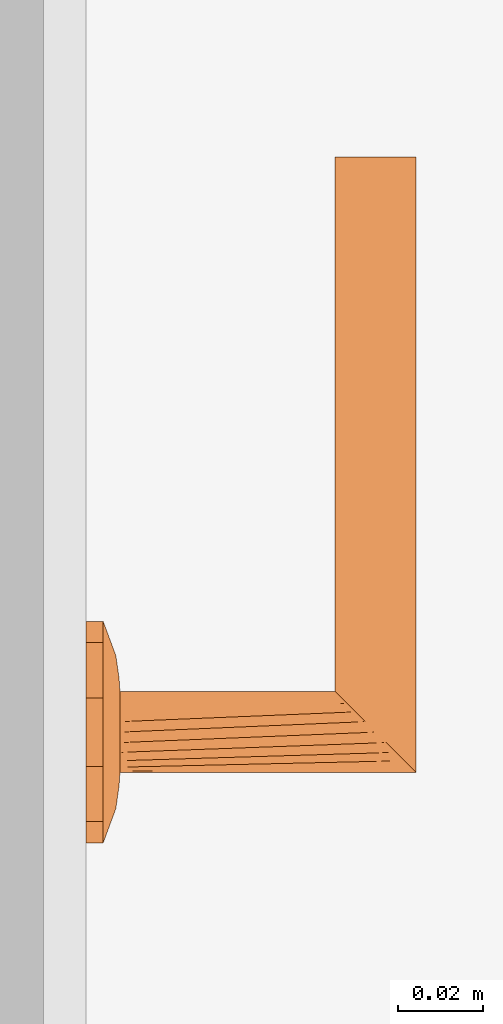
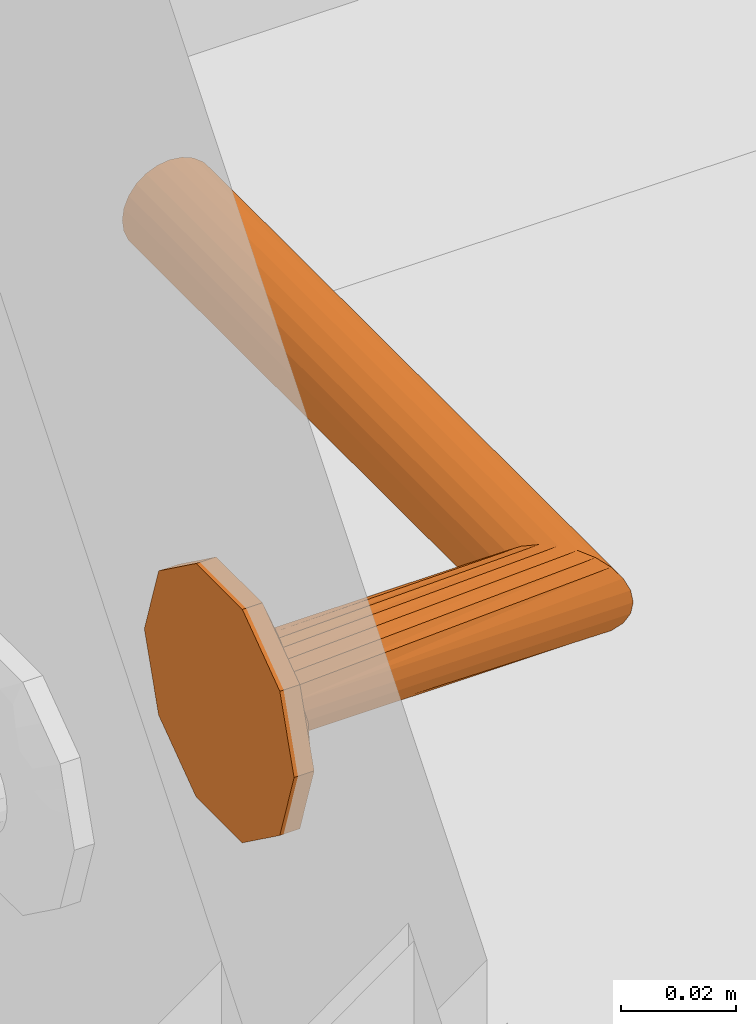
# One storey, part 31 of 55: 1 proxy.
"""IFC2X3 building model written with IfcOpenShell, lengths in millimetres."""

from ifc_helpers import new_model, entity, si_unit, converted_unit, direction, frame, origin, place, context, subcontext, project, spatial, faceted_brep, source, transform, mapped, material, type_object, type_shapes, element, save


model = new_model("IFC2X3")

# Units and contexts
model_context = context("Model", 3, precision=0.01, world=origin(), true_north=direction((6.123233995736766e-17, 1.0)))
plan_context = context("Plan", 3, precision=0.01, world=origin(), true_north=direction((6.123233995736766e-17, 1.0)))
body_context = subcontext(model_context, "Body", "Model", "MODEL_VIEW")
ifc_project = project(units=[si_unit("LENGTHUNIT", "METRE", prefix="MILLI"), converted_unit("PLANEANGLEUNIT", "DEGREE", entity("IfcPlaneAngleMeasure", 0.017453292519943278), si_unit("PLANEANGLEUNIT", "RADIAN"), dimensions=[0, 0, 0, 0, 0, 0, 0]), si_unit("AREAUNIT", "SQUARE_METRE")], contexts=[model_context, plan_context])

# Site, building, storey, space
site_placement = place(None, origin())
site = spatial("IfcSite", under=ifc_project, at=site_placement, Name="Default", CompositionType="ELEMENT")
building_placement = place(site_placement, origin())
building = spatial("IfcBuilding", under=site, at=building_placement, CompositionType="ELEMENT")
storey_placement = place(building_placement, origin())
storey = spatial("IfcBuildingStorey", under=building, at=storey_placement, Name="1K", CompositionType="ELEMENT", Elevation=0.0)
space_placement = place(storey_placement, origin())
space = spatial("IfcSpace", under=storey, at=space_placement, Name="1-0.1", CompositionType="ELEMENT", InteriorOrExteriorSpace="INTERNAL")

# Proxy
ifc_material = material(Name="<Unnamed>")
building_element_proxy_type = type_object("IfcBuildingElementProxyType", Name="Door-handle_Lever_ABLOY_INOXI_3-19ss-002_RT:Default", PredefinedType="NOTDEFINED", material=ifc_material)
shared_shape = source(origin(), body_context, "Body", "Brep", [
    faceted_brep([(0.0, 0.0, 0.0), (8.034441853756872, 24.72746942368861, 0.0), (14.534441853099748, 20.00494299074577, 0.0), (21.034441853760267, 15.282416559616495, 0.0), (23.51722092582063, 7.641208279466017, 0.0), (26.0, 0.0, 0.0), (23.517220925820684, -7.641208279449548, 0.0), (0.0, 24.72746942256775, 0.0), (-8.034441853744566, 24.727469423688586, 0.0), (-14.534441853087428, 20.00494299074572, 0.0), (-21.03444185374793, 15.282416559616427, 0.0), (-23.517220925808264, 7.641208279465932, 0.0), (-26.0, 0.0, 0.0), (21.034441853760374, -15.282416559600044, 0.0), (14.534441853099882, -20.004942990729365, 0.0), (8.034441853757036, -24.72746942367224, 0.0), (0.0, -24.72746942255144, 0.0), (-23.517220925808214, -7.641208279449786, 0.0), (-21.034441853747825, -15.282416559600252, 0.0), (-14.53444185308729, -20.004942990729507, 0.0), (-8.0344418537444, -24.72746942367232, 0.0), (0.0, 0.0, 8.0), (9.500000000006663, 0.0, 8.0), (8.312500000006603, 2.056810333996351, 8.0), (7.125000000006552, 4.113620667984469, 8.0), (5.937500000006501, 6.170431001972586, 8.0), (4.7500000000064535, 8.227241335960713, 8.0), (2.375000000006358, 8.2272413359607, 8.0), (0.0, 8.227241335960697, 8.0), (-2.3749999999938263, 8.227241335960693, 8.0), (-4.749999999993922, 8.227241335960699, 8.0), (-5.937499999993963, 6.1704310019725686, 8.0), (-7.124999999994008, 4.1136206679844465, 8.0), (-8.312499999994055, 2.0568103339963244, 8.0), (-9.499999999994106, 0.0, 8.0), (-8.31249999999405, -2.0568103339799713, 8.0), (8.312500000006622, -2.0568103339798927, 8.0), (7.125000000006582, -4.113620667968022, 8.0), (5.937500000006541, -6.170431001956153, 8.0), (4.750000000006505, -8.227241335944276, 8.0), (-7.124999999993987, -4.113620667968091, 8.0), (-5.9374999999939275, -6.17043100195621, 8.0), (-4.74999999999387, -8.227241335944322, 8.0), (-2.374999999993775, -8.227241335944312, 8.0), (0.0, -8.227241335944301, 8.0), (2.3750000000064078, -8.227241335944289, 8.0), (-20.6430713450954, 6.292822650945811, 5.929480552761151), (-16.663919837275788, 7.932665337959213, 6.877259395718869), (-22.48876527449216, 10.806469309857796, 4.030771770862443), (-16.764060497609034, 3.8202578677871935, 7.1747985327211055), (-12.504579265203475, 5.179566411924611, 7.774932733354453), (-11.979136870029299, 13.678312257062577, 6.945778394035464), (-11.963426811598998, 8.62529041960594, 7.618343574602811), (-9.07172672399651, 10.31160661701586, 7.7520782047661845), (8.03444185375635, 24.727469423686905, 4.030771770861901), (0.0, 24.72746942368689, 4.030771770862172), (5.758554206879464, 20.96753300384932, 5.871476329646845), (20.643071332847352, 6.292822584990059, 5.929480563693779), (22.488765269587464, 10.806469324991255, 4.03077177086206), (16.66391982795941, 7.9326653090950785, 6.877259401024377), (9.49943163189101, 18.6436835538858, 6.154325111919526), (14.534441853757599, 20.004942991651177, 4.030771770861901), (-14.534441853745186, 20.00494299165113, 4.030771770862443), (-21.034441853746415, 15.282416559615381, 4.030771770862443), (-15.783149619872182, 11.991003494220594, 6.50080018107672), (-23.943088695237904, 6.330522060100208, 4.030771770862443), (-23.012042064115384, 0.0, 5.135401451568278), (12.50457924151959, 5.179566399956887, 7.774932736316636), (11.963426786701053, 8.625290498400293, 7.618343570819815), (16.76406041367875, 3.820257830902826, 7.17479855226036), (15.783149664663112, 11.991003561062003, 6.50080015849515), (23.01204200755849, 0.0, 5.135401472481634), (17.9853516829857, 0.0, 6.993737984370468), (8.661516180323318, 10.478936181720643, 7.768126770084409), (-3.3573143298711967, 21.197247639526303, 5.971427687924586), (-8.03444185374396, 24.727469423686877, 4.030771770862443), (-7.711266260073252, 12.76034452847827, 7.594456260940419), (-5.97325794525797, 16.43013906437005, 7.110979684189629), (-9.94191586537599, 17.061976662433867, 6.522757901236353), (11.979136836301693, 13.678312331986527, 6.945778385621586), (5.953298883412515, 16.50608604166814, 7.096344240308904), (7.511307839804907, 13.358932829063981, 7.529187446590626), (-1.5654593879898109, 15.307443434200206, 7.519134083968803), (-7.784980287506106, 20.476295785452, 5.812837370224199), (2.8135289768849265, 17.763922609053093, 6.993737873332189), (-17.985351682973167, 0.0, 6.993737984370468), (-26.0, 0.0, 4.030771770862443), (-23.51722092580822, 7.641208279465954, 4.030771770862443), (26.0, 0.0, 4.030771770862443), (24.308823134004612, 5.204907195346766, 4.030771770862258), (23.943088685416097, 6.330522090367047, 4.030771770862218), (21.03444185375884, 15.282416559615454, 4.030771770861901), (22.617646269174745, 10.40981439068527, 4.030771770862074), (20.6430713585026, -6.292822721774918, 5.929480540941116), (16.663919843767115, -7.932665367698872, 6.877259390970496), (22.48876527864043, -10.8064692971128, 4.030771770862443), (16.764060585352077, -3.8202579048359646, 7.174798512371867), (12.504579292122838, -5.17956641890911, 7.774932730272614), (11.979136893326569, -13.678312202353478, 6.9457784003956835), (11.963426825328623, -8.62529034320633, 7.618343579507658), (9.071726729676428, -10.311606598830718, 7.752078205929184), (-8.03444185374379, -24.727469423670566, 4.030771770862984), (0.0, -24.727469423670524, 4.030771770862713), (-5.758554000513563, -20.96753314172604, 5.8714763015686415), (-20.643071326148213, -6.292822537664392, 5.929480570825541), (-22.488765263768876, -10.80646934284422, 4.030771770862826), (-16.66391981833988, -7.932665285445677, 6.877259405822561), (-9.499431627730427, -18.643683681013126, 6.154325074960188), (-14.534441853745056, -20.004942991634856, 4.030771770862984), (14.53444185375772, -20.00494299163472, 4.030771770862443), (21.034441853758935, -15.282416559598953, 4.030771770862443), (15.783149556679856, -11.991003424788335, 6.5008002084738), (23.943088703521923, -6.330522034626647, 4.030771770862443), (-12.504579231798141, -5.17956638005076, 7.77493273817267), (-11.963426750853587, -8.625290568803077, 7.618343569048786), (-16.764060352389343, -3.8202577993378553, 7.174798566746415), (-15.783149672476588, -11.991003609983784, 6.500800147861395), (-8.661516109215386, -10.478936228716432, 7.768126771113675), (3.3573144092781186, -21.197247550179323, 5.971427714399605), (8.034441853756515, -24.727469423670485, 4.030771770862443), (7.711266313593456, -12.760344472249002, 7.5944562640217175), (5.9732581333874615, -16.430139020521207, 7.110979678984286), (9.941915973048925, -17.06197655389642, 6.522757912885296), (-11.979136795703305, -13.678312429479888, 6.945778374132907), (-5.953298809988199, -16.506086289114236, 7.096344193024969), (-7.511307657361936, -13.358932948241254, 7.5291874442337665), (1.5654596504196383, -15.3074431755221, 7.519134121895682), (7.784980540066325, -20.476295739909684, 5.812837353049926), (-2.81352881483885, -17.76392263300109, 6.993737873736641), (23.517220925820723, -7.64120827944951, 4.030771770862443), (-24.308823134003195, -5.20490719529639, 4.030771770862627), (-23.943088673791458, -6.330522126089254, 4.030771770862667), (-21.034441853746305, -15.282416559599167, 4.030771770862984), (-22.617646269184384, -10.409814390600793, 4.0307717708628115)], [[[0, 1, 2]], [[0, 2, 3]], [[0, 3, 4]], [[0, 4, 5]], [[0, 5, 6]], [[0, 7, 1]], [[0, 8, 7]], [[0, 9, 8]], [[0, 10, 9]], [[0, 11, 10]], [[0, 12, 11]], [[0, 6, 13]], [[0, 13, 14]], [[0, 14, 15]], [[0, 15, 16]], [[0, 17, 12]], [[0, 18, 17]], [[0, 19, 18]], [[0, 20, 19]], [[0, 16, 20]], [[21, 22, 23]], [[21, 23, 24]], [[21, 24, 25]], [[21, 25, 26]], [[21, 26, 27]], [[21, 27, 28]], [[21, 28, 29]], [[21, 29, 30]], [[21, 30, 31]], [[21, 31, 32]], [[21, 32, 33]], [[21, 33, 34]], [[21, 34, 35]], [[21, 36, 22]], [[21, 37, 36]], [[21, 38, 37]], [[21, 39, 38]], [[21, 35, 40]], [[21, 40, 41]], [[21, 41, 42]], [[21, 42, 43]], [[21, 43, 44]], [[21, 44, 45]], [[21, 45, 39]], [[46, 47, 48]], [[49, 50, 47]], [[33, 32, 50]], [[51, 52, 53]], [[32, 52, 50]], [[49, 47, 46]], [[54, 55, 56]], [[57, 58, 59]], [[60, 61, 54]], [[62, 63, 64]], [[46, 65, 66]], [[67, 59, 68]], [[23, 69, 67]], [[70, 68, 59]], [[23, 22, 69]], [[52, 51, 64]], [[71, 69, 72]], [[73, 25, 68]], [[74, 55, 75]], [[76, 77, 78]], [[70, 61, 79]], [[71, 57, 69]], [[60, 80, 81]], [[51, 76, 78]], [[77, 29, 82]], [[26, 81, 27]], [[74, 83, 77]], [[77, 82, 74]], [[74, 84, 55]], [[34, 49, 85]], [[23, 67, 24]], [[28, 84, 82]], [[74, 82, 84]], [[29, 76, 30]], [[29, 28, 82]], [[49, 34, 33]], [[47, 50, 52]], [[47, 52, 64]], [[50, 49, 33]], [[53, 76, 51]], [[52, 32, 31]], [[49, 66, 85]], [[86, 66, 65]], [[24, 67, 68]], [[83, 78, 77]], [[49, 46, 66]], [[48, 64, 63]], [[46, 48, 87, 65]], [[48, 47, 64]], [[59, 67, 69]], [[26, 73, 81]], [[79, 68, 70]], [[25, 24, 68]], [[71, 88, 89, 90]], [[22, 72, 69]], [[59, 69, 57]], [[79, 61, 60]], [[51, 62, 64]], [[70, 58, 91]], [[90, 57, 71]], [[58, 70, 59]], [[57, 90, 92]], [[79, 60, 81]], [[61, 70, 91]], [[56, 80, 60]], [[79, 81, 73]], [[80, 84, 27]], [[79, 73, 68]], [[27, 84, 28]], [[25, 73, 26]], [[77, 76, 29]], [[31, 30, 53]], [[78, 62, 51]], [[75, 62, 83]], [[78, 83, 62]], [[75, 83, 74]], [[76, 53, 30]], [[31, 53, 52]], [[81, 80, 27]], [[84, 80, 56]], [[84, 56, 55]], [[54, 56, 60]], [[93, 94, 95]], [[96, 97, 94]], [[36, 37, 97]], [[98, 99, 100]], [[37, 99, 97]], [[96, 94, 93]], [[101, 102, 103]], [[104, 105, 106]], [[107, 108, 101]], [[109, 110, 111]], [[93, 112, 71]], [[113, 106, 114]], [[35, 115, 113]], [[116, 114, 106]], [[35, 34, 115]], [[99, 98, 111]], [[66, 115, 85]], [[117, 41, 114]], [[118, 102, 119]], [[120, 121, 122]], [[116, 108, 123]], [[66, 104, 115]], [[107, 124, 125]], [[120, 45, 121]], [[121, 45, 126]], [[42, 125, 43]], [[118, 127, 121]], [[121, 126, 118]], [[118, 128, 102]], [[22, 96, 72]], [[35, 113, 40]], [[44, 128, 126]], [[118, 126, 128]], [[45, 120, 39]], [[45, 44, 126]], [[96, 22, 36]], [[94, 97, 99]], [[94, 99, 111]], [[97, 96, 36]], [[100, 120, 98]], [[99, 37, 38]], [[96, 71, 72]], [[88, 71, 112]], [[40, 113, 114]], [[127, 122, 121]], [[96, 93, 71]], [[95, 111, 110]], [[93, 95, 129, 112]], [[95, 94, 111]], [[106, 113, 115]], [[42, 117, 125]], [[123, 114, 116]], [[41, 40, 114]], [[66, 86, 130, 131]], [[34, 85, 115]], [[106, 115, 104]], [[123, 108, 107]], [[98, 109, 111]], [[116, 105, 132]], [[131, 104, 66]], [[105, 116, 106]], [[104, 131, 133]], [[123, 107, 125]], [[108, 116, 132]], [[103, 124, 107]], [[123, 125, 117]], [[124, 128, 43]], [[123, 117, 114]], [[43, 128, 44]], [[41, 117, 42]], [[38, 39, 100]], [[98, 120, 122]], [[122, 109, 98]], [[119, 109, 127]], [[122, 127, 109]], [[119, 127, 118]], [[120, 100, 39]], [[38, 100, 99]], [[125, 124, 43]], [[128, 124, 103]], [[128, 103, 102]], [[101, 103, 107]], [[9, 10, 63, 62, 75, 8]], [[11, 12, 86, 65, 87, 48, 63, 10]], [[4, 3, 92, 90, 89, 88, 5]], [[3, 91, 58]], [[55, 54, 1, 7, 8, 75]], [[3, 2, 1, 54, 61, 91]], [[13, 6, 5, 88, 112, 129, 95, 110]], [[119, 15, 14, 13, 110, 109]], [[17, 18, 133, 131, 130, 86, 12]], [[18, 132, 105]], [[102, 101, 20, 16, 15, 119]], [[18, 19, 20, 101, 108, 132]], [[57, 92, 58]], [[104, 133, 105]], [[3, 58, 92]], [[18, 105, 133]]]),
    faceted_brep([(0.0, 9.499999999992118, 8.0), (2.4587809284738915, 9.176295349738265, 8.0), (4.7499999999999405, 8.22724133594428, 8.0), (6.717514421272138, 6.7175144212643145, 8.0), (8.227241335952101, 4.749999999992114, 8.0), (9.17629534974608, 2.458780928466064, 8.0), (9.499999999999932, 0.0, 8.0), (9.17629534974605, -2.458780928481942, 8.0), (8.22724133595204, -4.75000000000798, 8.0), (6.717514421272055, -6.717514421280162, 8.0), (4.7499999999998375, -8.227241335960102, 8.0), (2.4587809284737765, -9.176295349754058, 8.0), (0.0, -9.500000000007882, 8.0), (-2.4587809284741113, -9.176295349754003, 8.0), (-4.750000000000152, -8.227241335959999, 8.0), (-6.717514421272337, -6.717514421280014, 8.0), (-8.227241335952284, -4.750000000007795, 8.0), (-9.176295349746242, -2.458780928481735, 8.0), (-9.500000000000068, 0.0, 8.0), (-9.176295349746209, 2.4587809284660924, 8.0), (-8.227241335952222, 4.74999999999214, 8.0), (-6.717514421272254, 6.717514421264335, 8.0), (-4.7500000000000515, 8.227241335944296, 8.0), (-2.4587809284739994, 9.176295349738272, 8.0), (-6.717514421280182, -6.7175144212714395, 61.282485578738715), (-8.227241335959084, -4.7499999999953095, 59.772758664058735), (-9.176295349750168, -2.458780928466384, 58.82370465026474), (-2.4587809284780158, -9.176295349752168, 65.54121907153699), (-4.750000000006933, -8.227241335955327, 63.25000000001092), (-9.500000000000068, 0.0, 58.50000000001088), (0.0, -9.50000000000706, 68.0), (2.4587809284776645, -9.17629534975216, 70.45878092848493), (4.750000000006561, -8.227241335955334, 72.75000000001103), (6.717514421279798, -6.7175144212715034, 74.71751442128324), (9.17629534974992, -2.458780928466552, 77.17629534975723), (8.22724133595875, -4.749999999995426, 76.22724133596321), (9.499999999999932, 0.0, 77.50000000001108), (9.176295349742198, 2.4587809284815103, 77.1762953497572), (8.227241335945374, 4.750000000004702, 76.22724133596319), (4.749999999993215, 8.227241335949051, 72.75000000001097), (6.7175144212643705, 6.717514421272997, 74.7175144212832), (2.4587809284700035, 9.17629534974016, 70.45878092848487), (-2.4587809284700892, 9.176295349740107, 65.54121907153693), (0.0, 9.49999999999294, 68.0), (-6.717514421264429, 6.717514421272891, 61.282485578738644), (-4.749999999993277, 8.227241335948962, 63.250000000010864), (-9.176295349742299, 2.458780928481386, 58.8237046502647), (-8.227241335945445, 4.750000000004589, 59.77275866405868), (-135.0, 9.500000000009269, 68.0), (-135.0, 9.176295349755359, 65.54121907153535), (-135.0, 8.227241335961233, 63.25000000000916), (-135.0, 6.7175144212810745, 61.28248557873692), (-135.0, 4.750000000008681, 59.772758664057), (-135.0, 2.458780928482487, 58.82370465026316), (-135.0, 0.0, 58.50000000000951), (-135.0, -2.458780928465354, 58.823704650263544), (-135.0, -4.749999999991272, 59.772758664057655), (-135.0, -6.717514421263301, 61.28248557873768), (-135.0, -8.227241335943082, 63.250000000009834), (-135.0, -9.17629534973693, 65.54121907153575), (-135.0, -9.499999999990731, 68.0), (-135.0, -9.17629534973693, 70.45878092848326), (-135.0, -8.227241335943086, 72.75000000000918), (-135.0, -6.717514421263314, 74.71751442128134), (-135.0, -4.749999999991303, 76.22724133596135), (-135.0, -2.4587809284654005, 77.17629534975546), (-135.0, 0.0, 77.5000000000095), (-135.0, 2.4587809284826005, 77.17629534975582), (-135.0, 4.750000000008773, 76.22724133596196), (-135.0, 6.717514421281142, 74.71751442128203), (-135.0, 8.227241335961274, 72.75000000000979), (-135.0, 9.176295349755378, 70.4587809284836)], [[[0, 1, 2, 3, 4, 5, 6, 7, 8, 9, 10, 11, 12, 13, 14, 15, 16, 17, 18, 19, 20, 21, 22, 23]], [[15, 24, 25, 16]], [[16, 25, 26, 17]], [[27, 28, 12]], [[12, 28, 13]], [[13, 28, 24]], [[18, 17, 26, 29]], [[24, 15, 14]], [[14, 13, 24]], [[11, 30, 27]], [[31, 9, 32]], [[32, 8, 33]], [[34, 35, 7]], [[7, 35, 33]], [[36, 34, 7, 6]], [[30, 11, 10]], [[11, 27, 12]], [[33, 8, 7]], [[8, 32, 9]], [[31, 10, 9]], [[10, 31, 30]], [[37, 36, 6, 5]], [[37, 5, 38]], [[39, 40, 4]], [[5, 40, 38]], [[41, 39, 3]], [[5, 4, 40]], [[42, 43, 1]], [[2, 1, 43]], [[2, 41, 3]], [[39, 4, 3]], [[2, 43, 41]], [[23, 44, 45]], [[0, 45, 42]], [[19, 18, 29, 46]], [[20, 19, 46, 47]], [[21, 20, 47, 44]], [[23, 22, 44]], [[45, 0, 23]], [[44, 22, 21]], [[1, 0, 42]], [[48, 49, 50, 51, 52, 53, 54, 55, 56, 57, 58, 59, 60, 61, 62, 63, 64, 65, 66, 67, 68, 69, 70, 71]], [[26, 25, 56, 55]], [[29, 26, 55, 54]], [[28, 27, 59, 58]], [[24, 28, 58, 57]], [[25, 24, 57, 56]], [[27, 30, 60, 59]], [[32, 33, 63, 62]], [[31, 32, 62, 61]], [[34, 36, 66, 65]], [[35, 34, 65, 64]], [[33, 35, 64, 63]], [[61, 60, 30, 31]], [[38, 68, 67, 37]], [[37, 67, 66, 36]], [[41, 71, 70, 39]], [[39, 70, 69, 40]], [[40, 69, 68, 38]], [[48, 71, 41, 43]], [[44, 51, 50, 45]], [[45, 50, 49, 42]], [[29, 54, 53, 46]], [[46, 53, 52, 47]], [[47, 52, 51, 44]], [[42, 49, 48, 43]]]),
])
type_shapes(building_element_proxy_type, [shared_shape])
proxy_placement = place(space_placement, frame((3349.9935349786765, 5309.998433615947, 1000.0), z_axis=(1.0, 0.0, 0.0), x_axis=(0.0, -1.0, 0.0)))
element("IfcBuildingElementProxy", 1, at=proxy_placement, inside=space, type_object=building_element_proxy_type, material=ifc_material, Name="Door-handle_Lever_ABLOY_INOXI_3-19ss-002_RT:Default", ObjectType="Door-handle_Lever_ABLOY_INOXI_3-19ss-002_RT:Default", context=body_context, shape_type="MappedRepresentation", body=[
    mapped(shared_shape, transform((0.0, 0.0, 0.0), scale=1.0)),
])

save(model, "model.ifc")
